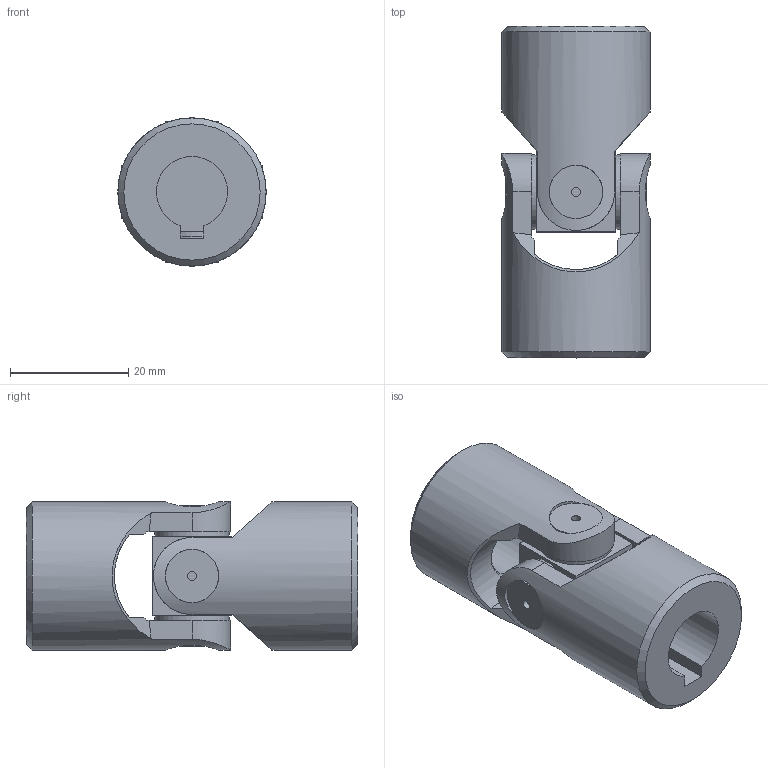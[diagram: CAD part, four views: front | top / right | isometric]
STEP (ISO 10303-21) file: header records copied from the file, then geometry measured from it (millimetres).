
FILE_DESCRIPTION(/* description */ ('EXTENSIBLE TRANSIMISSIONS Series G DIN 808 -2-'),/* implementation_level */ '2;1');
FILE_NAME(/* name */ '\\SRV2016\societa\Stefano\Disegni 3D\Dis. Clienti\0000Catalogo 3D\01Singoli G-GB\SG0S121C.stp',/* time_stamp */ '2021-11-08T14:40:43+01:00',/* author */ ('acquisti'),/* organization */ ('MARIOFERRI'),/* preprocessor_version */ 'ST-DEVELOPER v15.6',/* originating_system */ 'Autodesk Inventor 2015',/* authorisation */ '');
FILE_SCHEMA (('AUTOMOTIVE_DESIGN { 1 0 10303 214 3 1 1 }'));
Length unit declared in the file: millimetre
Products named in the file (4): 04G SFE; 04G MOS; 04G MOC; Assieme1
Assembly tree (3 placements, depth 2):
  Assieme1
    04G SFE
    04G MOS
    04G MOC
Bounding box: 25 x 56 x 25 mm (x, y, z)
Volume: 18621.1 mm3; surface area: 8637.3 mm2
Topology: 3 solids, 3 shells, 87 faces, 205 edges, 134 vertices
Faces by surface type: plane 39, cylinder 34, cone 12, torus 2
Full cylindrical faces by diameter (mm): 1.5 x4, 12 x1, 12.5 x4, 13 x1, 25 x2
Entity records: 2872 total; most frequent: CARTESIAN_POINT 949, ORIENTED_EDGE 374, DIRECTION 369, EDGE_CURVE 187, AXIS2_PLACEMENT_3D 162, VERTEX_POINT 133, EDGE_LOOP 118, FACE_OUTER_BOUND 87
